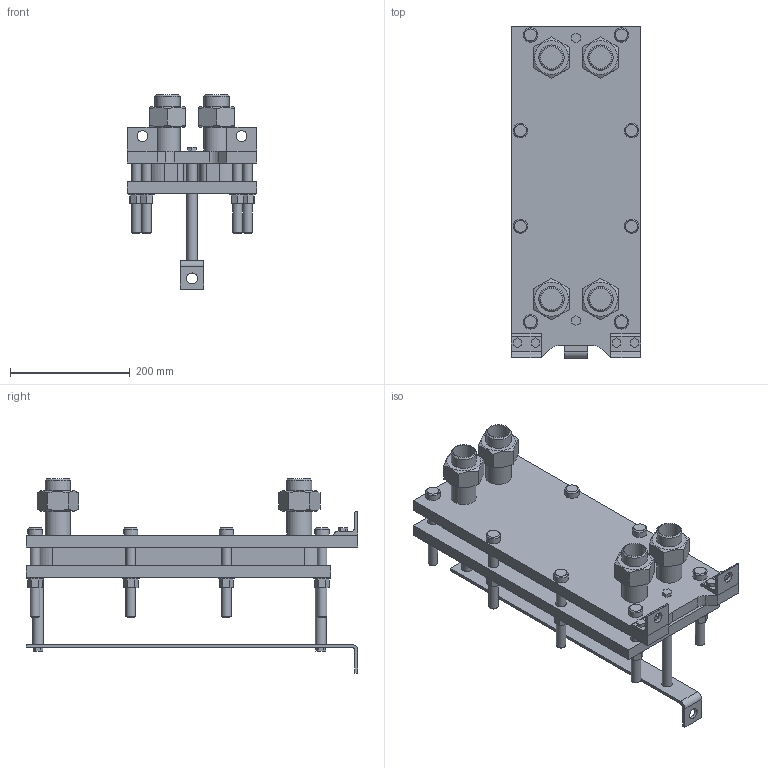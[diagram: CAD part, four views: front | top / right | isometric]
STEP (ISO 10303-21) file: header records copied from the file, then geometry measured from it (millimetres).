
FILE_DESCRIPTION(/* description */ (''),/* implementation_level */ '2;1');
FILE_NAME(/* name */ 'C:\Users\zhuro\Desktop\ENCO\TO\ЭН-004\ЭН-0,5-004-10-1.stp',/* time_stamp */ '2022-06-06T10:44:44+03:00',/* author */ ('zhuro'),/* organization */ (''),/* preprocessor_version */ 'ST-DEVELOPER v18.1',/* originating_system */ 'Autodesk Inventor 2022',/* authorisation */ '');
FILE_SCHEMA (('AUTOMOTIVE_DESIGN { 1 0 10303 214 3 1 1 }'));
Length unit declared in the file: millimetre
Products named in the file (1): ЭН-0,5-004-10-1
Bounding box: 216 x 555 x 325 mm (x, y, z)
Volume: 7763453.8 mm3; surface area: 1026309.5 mm2
Topology: 40 solids, 40 shells, 403 faces, 865 edges, 574 vertices
Faces by surface type: plane 272, cylinder 103, cone 28
Full cylindrical faces by diameter (mm): 10 x4, 16 x16, 18 x29, 20 x2, 24 x8, 28 x8, 36.3 x5, 42.3 x9
Entity records: 11137 total; most frequent: CARTESIAN_POINT 1939, DIRECTION 1879, ORIENTED_EDGE 1730, EDGE_CURVE 865, AXIS2_PLACEMENT_3D 658, VERTEX_POINT 574, LINE 563, VECTOR 563
